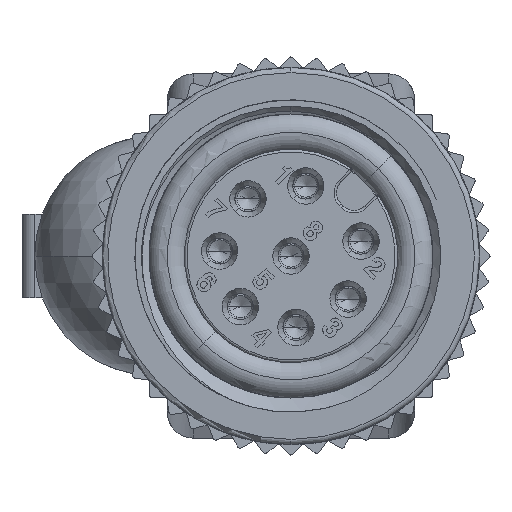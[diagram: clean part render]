
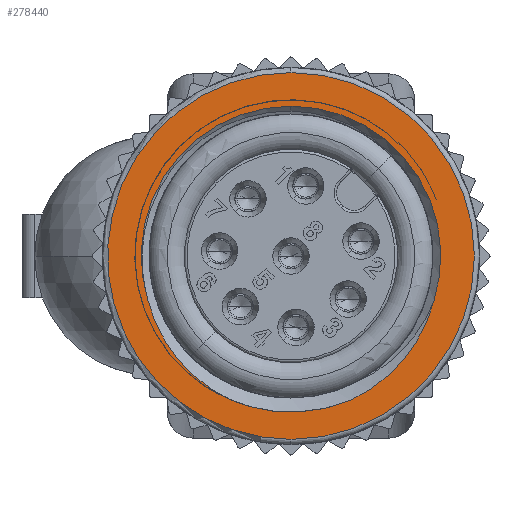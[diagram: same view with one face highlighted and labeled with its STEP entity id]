
A CAD part, left-side view. The second image highlights one B-rep face of the part: STEP entity #278440.
In plain terms, the highlighted planar face has unit normal (-1, 0, 0) as drawn and (1, 0, 0) by its records, which use the part's own axes.
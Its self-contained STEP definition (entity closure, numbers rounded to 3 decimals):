
#277450=CARTESIAN_POINT('',(-1.5,-4.985,-4.985));
#277460=VERTEX_POINT('',#277450);
#277560=CARTESIAN_POINT('',(-1.5,4.985,4.985));
#277570=VERTEX_POINT('',#277560);
#277600=CARTESIAN_POINT('',(-1.5,0.,0.));
#277610=DIRECTION('',(-1.,0.,0.));
#277620=DIRECTION('',(0.,0.707,0.707));
#277630=AXIS2_PLACEMENT_3D('',#277600,#277610,#277620);
#277640=CIRCLE('',#277630,7.05);
#277650=CARTESIAN_POINT('',(-1.5,-4.662,5.289));
#277660=VERTEX_POINT('',#277650);
#277670=EDGE_CURVE('',#277660,#277570,#277640,.T.);
#277690=EDGE_CURVE('',#277460,#277660,#277640,.T.);
#277740=CARTESIAN_POINT('',(-1.5,0.,0.));
#277750=DIRECTION('',(-1.,0.,0.));
#277760=DIRECTION('',(0.,0.707,0.707));
#277770=AXIS2_PLACEMENT_3D('',#277740,#277750,#277760);
#277780=PLANE('',#277770);
#277790=ORIENTED_EDGE('',*,*,#277670,.F.);
#277800=EDGE_CURVE('',#277570,#277460,#277640,.T.);
#277810=ORIENTED_EDGE('',*,*,#277800,.F.);
#277820=ORIENTED_EDGE('',*,*,#277690,.F.);
#277830=EDGE_LOOP('',(#277820,#277810,#277790));
#277840=FACE_OUTER_BOUND('',#277830,.T.);
#277850=CARTESIAN_POINT('',(-1.5,0.,0.
));
#277860=DIRECTION('',(-1.,0.,0.));
#277870=DIRECTION('',(0.,-0.885,0.465));
#277880=AXIS2_PLACEMENT_3D('',#277850,#277860,#277870);
#277890=CIRCLE('',#277880,5.759);
#277900=CARTESIAN_POINT('',(-1.5,4.072,
4.072));
#277910=VERTEX_POINT('',#277900);
#277920=CARTESIAN_POINT('',(-1.5,2.676,
-5.099));
#277930=VERTEX_POINT('',#277920);
#277940=EDGE_CURVE('',#277910,#277930,#277890,.T.);
#277950=ORIENTED_EDGE('',*,*,#277940,.T.);
#277960=CARTESIAN_POINT('',(-1.5,-5.099,
2.676));
#277970=VERTEX_POINT('',#277960);
#277980=EDGE_CURVE('',#277970,#277910,#277890,.T.);
#277990=ORIENTED_EDGE('',*,*,#277980,.T.);
#278000=CARTESIAN_POINT('',(-1.5,-5.543,-2.296));
#278010=CARTESIAN_POINT('',(-1.5,-5.629,-2.06));
#278020=CARTESIAN_POINT('',(-1.5,-5.768,
-1.583));
#278030=CARTESIAN_POINT('',(-1.5,-5.886,
-0.847));
#278040=CARTESIAN_POINT('',(-1.5,-5.911,
-0.107));
#278050=CARTESIAN_POINT('',(-1.5,-5.844,
0.629));
#278060=CARTESIAN_POINT('',(-1.5,-5.686,
1.346));
#278070=CARTESIAN_POINT('',(-1.5,-5.44,
2.036));
#278080=CARTESIAN_POINT('',(-1.5,-5.222,
2.467));
#278090=CARTESIAN_POINT('',(-1.5,-5.099,
2.676));
#278100=B_SPLINE_CURVE_WITH_KNOTS('',3,(#278000,#278010,#278020,#278030,
#278040,#278050,#278060,#278070,#278080,#278090),.UNSPECIFIED.,.F.,.F.,(
4,1,1,1,1,1,1,4),(0.,0.143,0.286,0.429,
0.571,0.714,0.857,1.),.UNSPECIFIED.);
#278110=CARTESIAN_POINT('',(-1.5,-5.543,-2.296));
#278120=VERTEX_POINT('',#278110);
#278130=EDGE_CURVE('',#278120,#277970,#278100,.T.);
#278140=ORIENTED_EDGE('',*,*,#278130,.T.);
#278150=CARTESIAN_POINT('',(-1.5,-2.296,-5.543));
#278160=CARTESIAN_POINT('',(-1.5,-2.539,-5.443));
#278170=CARTESIAN_POINT('',(-1.5,-3.007,-5.212));
#278180=CARTESIAN_POINT('',(-1.5,-3.663,-4.774));
#278190=CARTESIAN_POINT('',(-1.5,-4.256,-4.254));
#278200=CARTESIAN_POINT('',(-1.5,-4.772,-3.665));
#278210=CARTESIAN_POINT('',(-1.5,-5.213,-3.006));
#278220=CARTESIAN_POINT('',(-1.5,-5.443,-2.538));
#278230=CARTESIAN_POINT('',(-1.5,-5.543,-2.296));
#278240=B_SPLINE_CURVE_WITH_KNOTS('',3,(#278150,#278160,#278170,#278180,
#278190,#278200,#278210,#278220,#278230),.UNSPECIFIED.,.F.,.F.,(4,1,1,1,
1,1,4),(0.,0.167,0.333,0.5,0.667,
0.833,1.),.UNSPECIFIED.);
#278250=CARTESIAN_POINT('',(-1.5,-2.296,-5.543));
#278260=VERTEX_POINT('',#278250);
#278270=EDGE_CURVE('',#278260,#278120,#278240,.T.);
#278280=ORIENTED_EDGE('',*,*,#278270,.T.);
#278290=CARTESIAN_POINT('',(-1.5,-2.296,-5.543));
#278300=CARTESIAN_POINT('',(-1.5,-2.06,-5.629));
#278310=CARTESIAN_POINT('',(-1.5,-1.582,
-5.768));
#278320=CARTESIAN_POINT('',(-1.5,-0.846,
-5.886));
#278330=CARTESIAN_POINT('',(-1.5,-0.107,
-5.911));
#278340=CARTESIAN_POINT('',(-1.5,0.63,
-5.844));
#278350=CARTESIAN_POINT('',(-1.5,1.346,
-5.686));
#278360=CARTESIAN_POINT('',(-1.5,2.035,
-5.44));
#278370=CARTESIAN_POINT('',(-1.5,2.467,
-5.222));
#278380=CARTESIAN_POINT('',(-1.5,2.676,
-5.099));
#278390=B_SPLINE_CURVE_WITH_KNOTS('',3,(#278290,#278300,#278310,#278320,
#278330,#278340,#278350,#278360,#278370,#278380),.UNSPECIFIED.,.F.,.F.,(
4,1,1,1,1,1,1,4),(0.,0.143,0.286,0.429,
0.571,0.714,0.857,1.),.UNSPECIFIED.);
#278400=EDGE_CURVE('',#278260,#277930,#278390,.T.);
#278410=ORIENTED_EDGE('',*,*,#278400,.F.);
#278420=EDGE_LOOP('',(#278410,#278280,#278140,#277990,#277950));
#278430=FACE_BOUND('',#278420,.T.);
#278440=ADVANCED_FACE('',(#277840,#278430),#277780,.F.);
